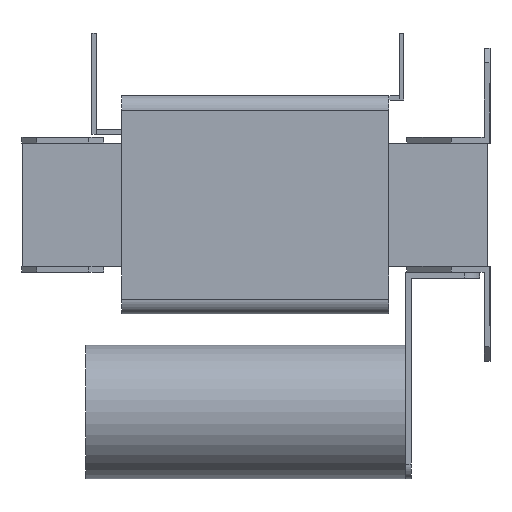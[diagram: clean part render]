
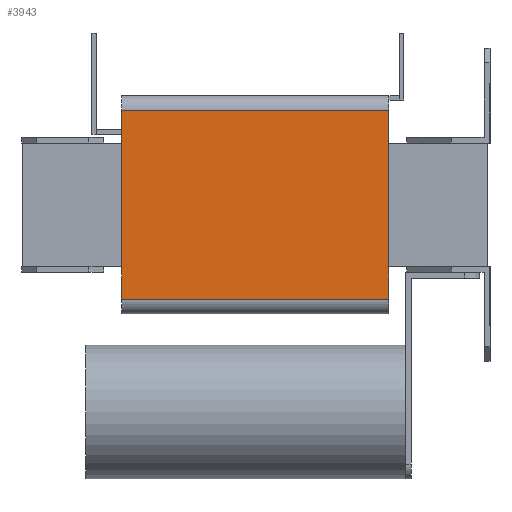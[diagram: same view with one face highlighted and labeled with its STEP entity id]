
A CAD part, left-side view. The second image highlights one B-rep face of the part: STEP entity #3943.
In plain terms, the highlighted planar face has unit normal (-1, 0, 0).
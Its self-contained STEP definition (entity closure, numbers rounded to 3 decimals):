
#329=FACE_OUTER_BOUND('',#575,.T.);
#575=EDGE_LOOP('',(#3039,#3040,#3041,#3042));
#903=LINE('',#6010,#1359);
#908=LINE('',#6029,#1364);
#912=LINE('',#6043,#1368);
#915=LINE('',#6049,#1371);
#1359=VECTOR('',#4886,10.);
#1364=VECTOR('',#4903,10.);
#1368=VECTOR('',#4915,10.);
#1371=VECTOR('',#4924,10.);
#1791=VERTEX_POINT('',#6008);
#1792=VERTEX_POINT('',#6009);
#1800=VERTEX_POINT('',#6027);
#1806=VERTEX_POINT('',#6041);
#2231=EDGE_CURVE('',#1791,#1792,#903,.T.);
#2241=EDGE_CURVE('',#1800,#1791,#908,.T.);
#2248=EDGE_CURVE('',#1800,#1806,#912,.T.);
#2251=EDGE_CURVE('',#1792,#1806,#915,.T.);
#3039=ORIENTED_EDGE('',*,*,#2241,.F.);
#3040=ORIENTED_EDGE('',*,*,#2248,.T.);
#3041=ORIENTED_EDGE('',*,*,#2251,.F.);
#3042=ORIENTED_EDGE('',*,*,#2231,.F.);
#3733=PLANE('',#4274);
#3943=ADVANCED_FACE('',(#329),#3733,.T.);
#4274=AXIS2_PLACEMENT_3D('',#6055,#4932,#4933);
#4886=DIRECTION('',(0.,0.,1.));
#4903=DIRECTION('',(0.,1.,0.));
#4915=DIRECTION('',(0.,0.,1.));
#4924=DIRECTION('',(0.,-1.,0.));
#4932=DIRECTION('center_axis',(-1.,0.,0.));
#4933=DIRECTION('ref_axis',(0.,0.,1.));
#6008=CARTESIAN_POINT('',(-171.,248.,-63.5));
#6009=CARTESIAN_POINT('',(-171.,248.,63.5));
#6010=CARTESIAN_POINT('',(-171.,248.,-63.5));
#6027=CARTESIAN_POINT('',(-171.,68.,-63.5));
#6029=CARTESIAN_POINT('',(-171.,68.,-63.5));
#6041=CARTESIAN_POINT('',(-171.,68.,63.5));
#6043=CARTESIAN_POINT('',(-171.,68.,-73.5));
#6049=CARTESIAN_POINT('',(-171.,68.,63.5));
#6055=CARTESIAN_POINT('Origin',(-171.,68.,-73.5));
